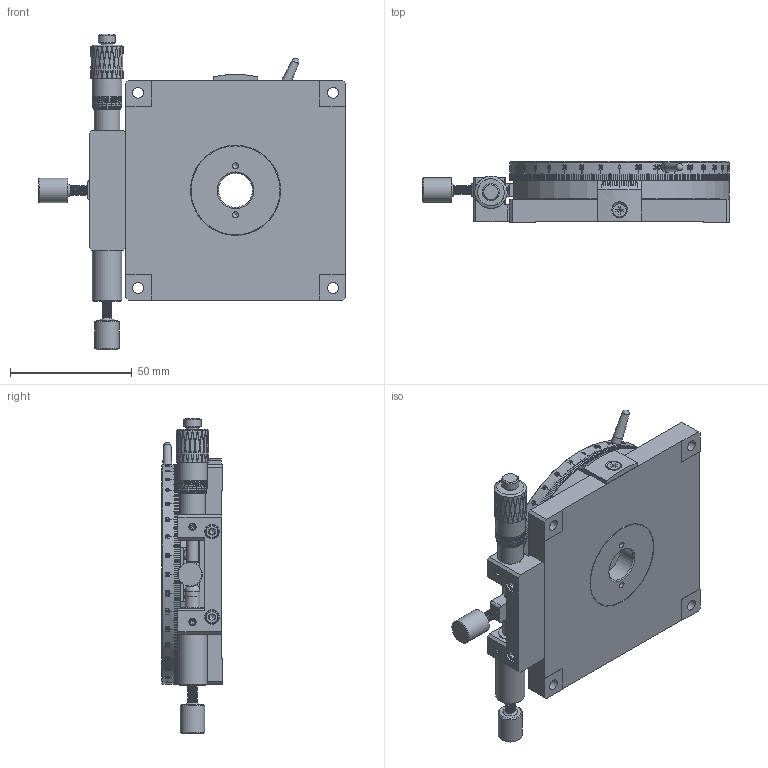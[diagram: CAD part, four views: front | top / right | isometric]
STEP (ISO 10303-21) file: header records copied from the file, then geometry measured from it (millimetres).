
FILE_DESCRIPTION (( 'STEP AP203' ), '1' );
FILE_NAME ('BPR90.STEP', '2024-07-09T12:16:35', ( 'Windows User' ), ( 'P R C' ), 'SwSTEP 2.0', 'SolidWorks 2024', '' );
FILE_SCHEMA (( 'CONFIG_CONTROL_DESIGN' ));
Products named in the file (1): BPR90
Bounding box: 125.7 x 25 x 129.36 mm (x, y, z)
Volume: 181057.8 mm3; surface area: 78844.9 mm2
Topology: 25 solids, 25 shells, 5052 faces, 13648 edges, 9034 vertices
Faces by surface type: bspline 2287, plane 2018, cylinder 485, cone 244, torus 13, sphere 5
Full cylindrical faces by diameter (mm): 2.05 x2, 2.5 x15, 2.6 x1, 2.8 x1, 2.85 x1, 2.9 x2, 3 x5, 3.2 x1, 3.3 x10, 3.4 x3, 4 x2, 4.5 x4, 5 x8, 5.3 x1, 5.5 x3, 6 x4, 7 x2, 8 x4, 8.5 x2, 8.8 x1, 9.5 x6, 10 x2, 10.5 x2, 12 x1, 12.2 x2, 14 x1, 14.1 x1, 15 x1, 23 x1, 23.5 x1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
Entity records: 347590 total; most frequent: CARTESIAN_POINT 242061, ORIENTED_EDGE 26810, EDGE_CURVE 13405, DIRECTION 12887, VERTEX_POINT 8979, B_SPLINE_CURVE_WITH_KNOTS 7311, EDGE_LOOP 5678, FACE_OUTER_BOUND 5174
